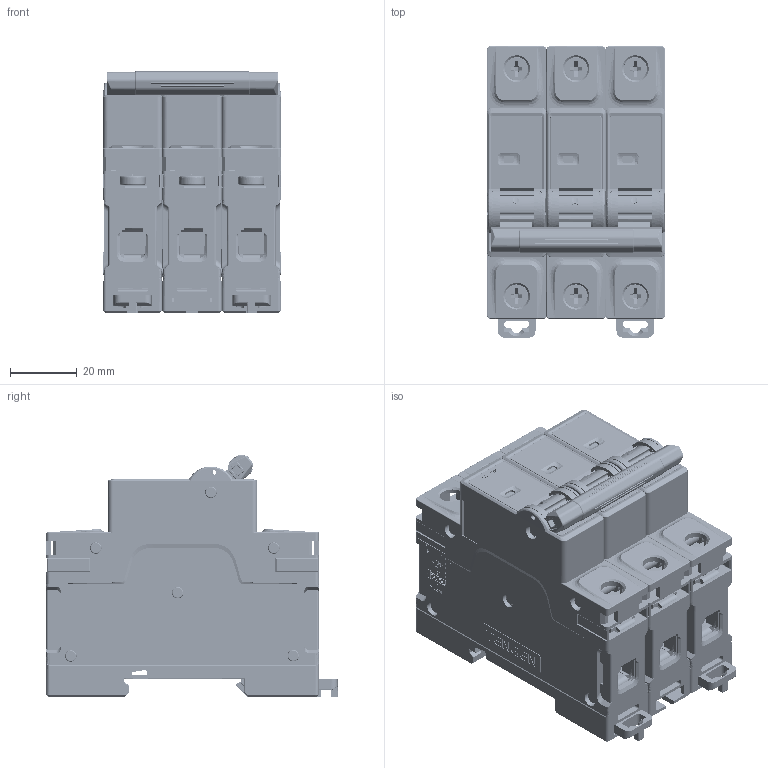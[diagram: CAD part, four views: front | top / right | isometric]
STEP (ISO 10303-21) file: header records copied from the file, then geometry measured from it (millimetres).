
FILE_DESCRIPTION (( 'STEP AP214' ), '1' );
FILE_NAME ('3D Model TGB3-63 3P.STEP', '2025-12-17T06:30:26', ( '' ), ( '' ), 'SwSTEP 2.0', 'SolidWorks 2024', '' );
FILE_SCHEMA (( 'AUTOMOTIVE_DESIGN' ));
Length unit declared in the file: millimetre
Products named in the file (12): TENGEN_TGB3-63L_3P_01_2.stp; 3D Model TGB3-63 3P_1.stp; 3D Model TGB3-63 3P.stp; TENGEN_TGB3-63L_3P_01_5.stp; 3D Model TGB3-63 3P; TENGEN_TGB3-63L_3P_01_7.stp; TENGEN_TGB3-63L_3P_01_8.stp; TENGEN_TGB3-63L_3P_01_1.stp; TENGEN_TGB3-63L_3P_01_3.stp; TENGEN_TGB3-63L_3P_01_6.stp; TENGEN_TGB3-63L_3P_01_9.stp; TENGEN_TGB3-63L_3P_01_4.stp
Assembly tree (11 placements, depth 3):
  3D Model TGB3-63 3P
    3D Model TGB3-63 3P.stp
      TENGEN_TGB3-63L_3P_01_1.stp
      TENGEN_TGB3-63L_3P_01_2.stp
      3D Model TGB3-63 3P_1.stp
      TENGEN_TGB3-63L_3P_01_3.stp
      TENGEN_TGB3-63L_3P_01_4.stp
      TENGEN_TGB3-63L_3P_01_5.stp
      TENGEN_TGB3-63L_3P_01_6.stp
      TENGEN_TGB3-63L_3P_01_7.stp
      TENGEN_TGB3-63L_3P_01_8.stp
      TENGEN_TGB3-63L_3P_01_9.stp
Bounding box: 53.4 x 87.35 x 72.8 mm (x, y, z)
Volume: 100341.5 mm3; surface area: 146926.4 mm2
Topology: 5 solids, 10 shells, 18034 faces, 49091 edges, 30969 vertices
Faces by surface type: plane 11410, cylinder 4381, bspline 691, torus 666, sphere 555, cone 331
Entity records: 670363 total; most frequent: CARTESIAN_POINT 318484, ORIENTED_EDGE 97321, EDGE_CURVE 48673, B_SPLINE_CURVE_WITH_KNOTS 47882, DIRECTION 35262, VERTEX_POINT 30954, EDGE_LOOP 18718, ADVANCED_FACE 18034
